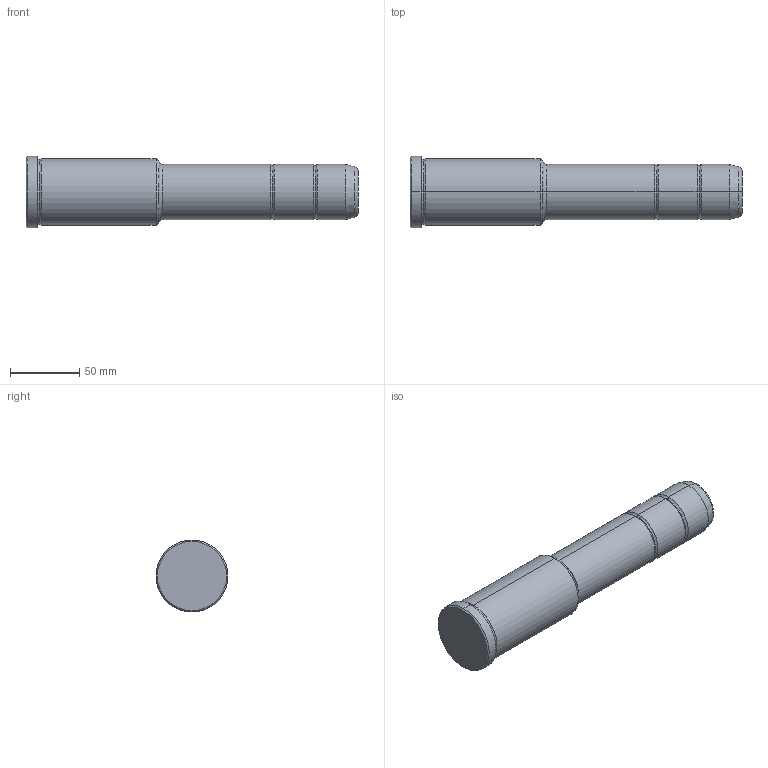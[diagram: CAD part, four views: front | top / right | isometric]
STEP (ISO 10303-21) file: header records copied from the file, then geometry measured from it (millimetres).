
FILE_DESCRIPTION(('CATIA V5 STEP Exchange'),'2;1');
FILE_NAME('C:\Users\Utente\Desktop\IO LAVORO\3D X SITO CF\X SITO\PLASTICA\351\351-40X96X240.stp','2021-10-07T14:06:12+00:00',('none'),('none'),'CATIA Version 5 Release 20 GA (IN-10)','CATIA V5 STEP AP203','none');
FILE_SCHEMA(('CONFIG_CONTROL_DESIGN'));
Length unit declared in the file: millimetre
Products named in the file (1): 351-40X96X240
Bounding box: 240 x 52 x 52 mm (x, y, z)
Volume: 355002.7 mm3; surface area: 36367.9 mm2
Topology: 1 solids, 1 shells, 36 faces, 102 edges, 70 vertices
Faces by surface type: torus 16, cylinder 10, cone 6, plane 4
Entity records: 1292 total; most frequent: CARTESIAN_POINT 321, ORIENTED_EDGE 204, DIRECTION 166, AXIS2_PLACEMENT_3D 115, EDGE_CURVE 102, CIRCLE 78, VERTEX_POINT 70, EDGE_LOOP 38
